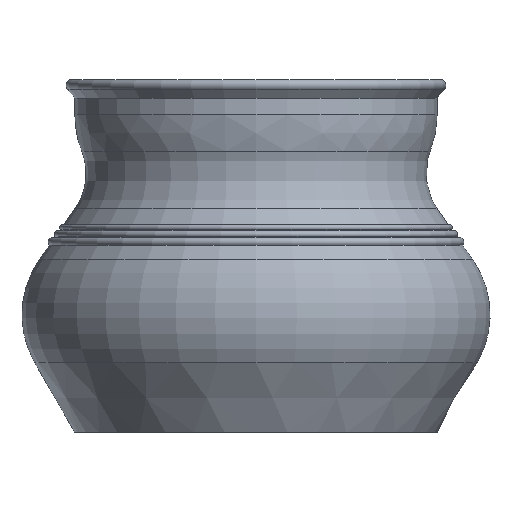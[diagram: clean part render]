
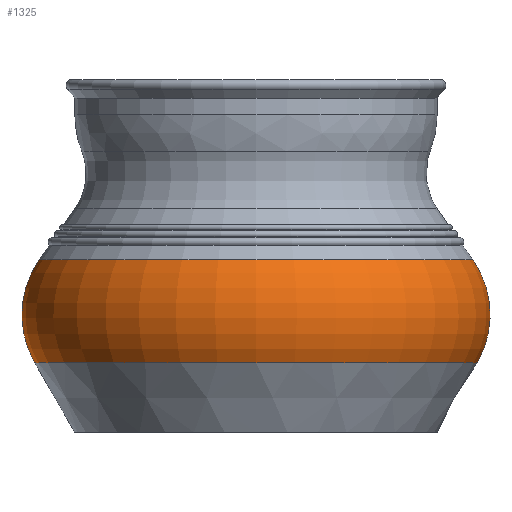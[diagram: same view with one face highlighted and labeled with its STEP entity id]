
A CAD part, front view. The second image highlights one B-rep face of the part: STEP entity #1325.
In plain terms, the highlighted toroidal (fillet/blend) face has major radius 117.152 mm and minor radius 81.848 mm.
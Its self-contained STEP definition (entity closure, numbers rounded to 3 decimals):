
#22=TOROIDAL_SURFACE('',#1503,117.152,81.848);
#166=FACE_OUTER_BOUND('',#284,.T.);
#284=EDGE_LOOP('',(#1208,#1209,#1210,#1211));
#526=CIRCLE('',#1467,188.072);
#549=CIRCLE('',#1504,184.16);
#550=CIRCLE('',#1505,81.848);
#653=VERTEX_POINT('',#2234);
#669=VERTEX_POINT('',#2349);
#818=EDGE_CURVE('',#653,#653,#526,.T.);
#849=EDGE_CURVE('',#669,#669,#549,.T.);
#850=EDGE_CURVE('',#669,#653,#550,.T.);
#1208=ORIENTED_EDGE('',*,*,#849,.F.);
#1209=ORIENTED_EDGE('',*,*,#850,.T.);
#1210=ORIENTED_EDGE('',*,*,#818,.T.);
#1211=ORIENTED_EDGE('',*,*,#850,.F.);
#1325=ADVANCED_FACE('',(#166),#22,.T.);
#1467=AXIS2_PLACEMENT_3D('',#2235,#1835,#1836);
#1503=AXIS2_PLACEMENT_3D('',#2348,#1915,#1916);
#1504=AXIS2_PLACEMENT_3D('',#2350,#1917,#1918);
#1505=AXIS2_PLACEMENT_3D('',#2351,#1919,#1920);
#1835=DIRECTION('center_axis',(0.,0.,1.));
#1836=DIRECTION('ref_axis',(1.,0.,0.));
#1915=DIRECTION('center_axis',(0.,0.,1.));
#1916=DIRECTION('ref_axis',(1.,0.,0.));
#1917=DIRECTION('center_axis',(0.,0.,1.));
#1918=DIRECTION('ref_axis',(1.,0.,0.));
#1919=DIRECTION('center_axis',(0.,-1.,0.));
#1920=DIRECTION('ref_axis',(-1.,0.,0.));
#2234=CARTESIAN_POINT('',(-188.072,0.,59.142));
#2235=CARTESIAN_POINT('Origin',(0.,0.,59.142));
#2348=CARTESIAN_POINT('Origin',(0.,0.,100.));
#2349=CARTESIAN_POINT('',(-184.16,0.,147.));
#2350=CARTESIAN_POINT('Origin',(0.,0.,147.));
#2351=CARTESIAN_POINT('Origin',(-117.152,0.,
100.));
